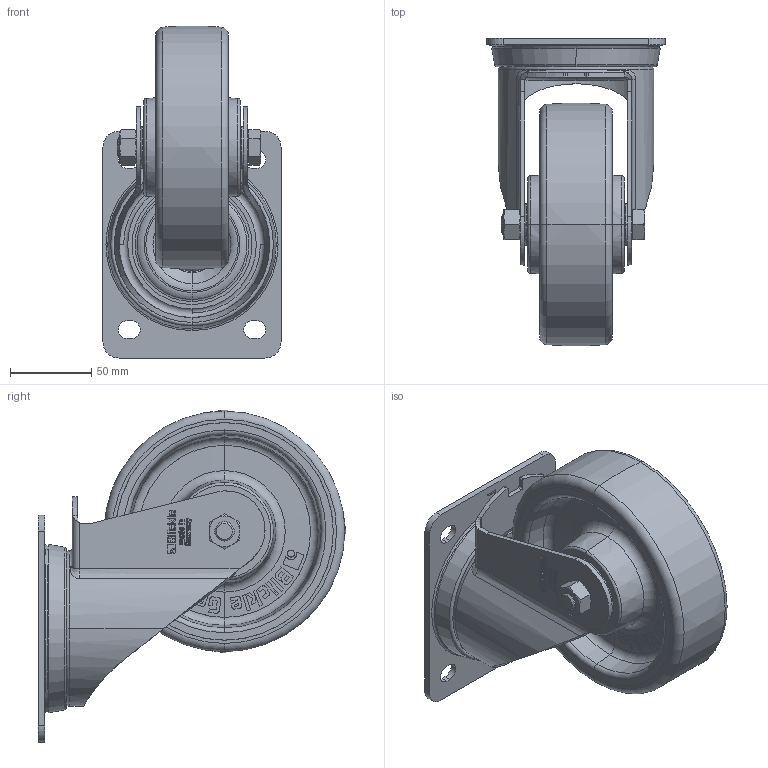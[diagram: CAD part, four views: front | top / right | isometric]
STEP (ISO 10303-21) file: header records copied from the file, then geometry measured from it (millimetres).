
FILE_DESCRIPTION (( 'STEP AP214' ), '1' );
FILE_NAME ('L-POTH_150K_078592-214.step', '2021-12-28T09:56:56', ( '' ), ( '' ), 'SwSTEP 2.0', 'SolidWorks 2018', '' );
FILE_SCHEMA (( 'AUTOMOTIVE_DESIGN' ));
Length unit declared in the file: millimetre
Products named in the file (5): GH-L_140-160_GH-L-160x60-03_20x60; L-POTH_150K_078592-214; GH-L-160x60-03_20x60_G16_3D; POTH_3D_G16_POTH_150_20K_260075; POTH_150_20K_G16_3D
Assembly tree (4 placements, depth 3):
  L-POTH_150K_078592-214
    GH-L_140-160_GH-L-160x60-03_20x60
      GH-L-160x60-03_20x60_G16_3D
    POTH_3D_G16_POTH_150_20K_260075
      POTH_150_20K_G16_3D
Bounding box: 110 x 189.91 x 204.91 mm (x, y, z)
Volume: 731369.8 mm3; surface area: 188422.5 mm2
Topology: 2 solids, 5 shells, 1731 faces, 4513 edges, 2943 vertices
Faces by surface type: plane 766, bspline 636, torus 124, cone 113, cylinder 92
Entity records: 65164 total; most frequent: CARTESIAN_POINT 26387, ORIENTED_EDGE 9026, DIRECTION 5400, EDGE_CURVE 4513, VERTEX_POINT 2943, VECTOR 2102, LINE 2102, EDGE_LOOP 1902
